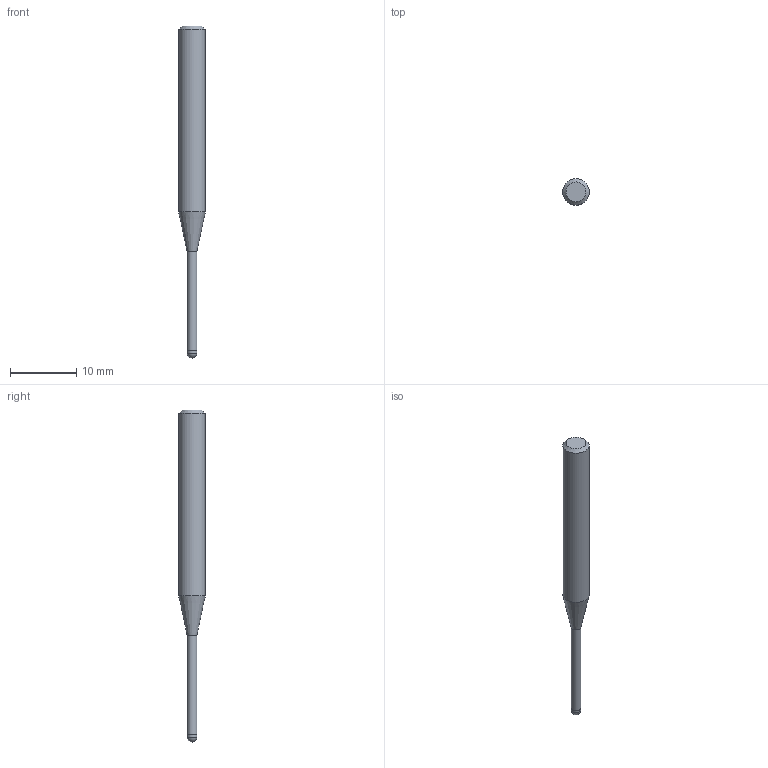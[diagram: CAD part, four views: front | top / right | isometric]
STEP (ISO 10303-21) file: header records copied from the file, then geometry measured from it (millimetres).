
FILE_DESCRIPTION((''),'2;1');
FILE_NAME('C:\Users\nsx150\AppData\Local\Temp\Mastercam 2021\AP8FW4WOPM\TEMP.step','2024-10-16T18:40:52',(''),(''),'STEP Write','Mastercam 2021 ... CNC Software, Inc.','');
FILE_SCHEMA(('AUTOMOTIVE_DESIGN'));
Length unit declared in the file: millimetre
Products named in the file (1): None
Bounding box: 4 x 4 x 50 mm (x, y, z)
Volume: 414.1 mm3; surface area: 489.4 mm2
Topology: 2 solids, 2 shells, 9 faces, 14 edges, 8 vertices
Faces by surface type: plane 3, cylinder 3, cone 2, sphere 1
Full cylindrical faces by diameter (mm): 1.45 x1, 1.5 x1, 4 x1
Entity records: 211 total; most frequent: DIRECTION 36, CARTESIAN_POINT 25, AXIS2_PLACEMENT_3D 18, ORIENTED_EDGE 14, EDGE_LOOP 14, STYLED_ITEM 12, ADVANCED_FACE 9, FACE_BOUND 8
